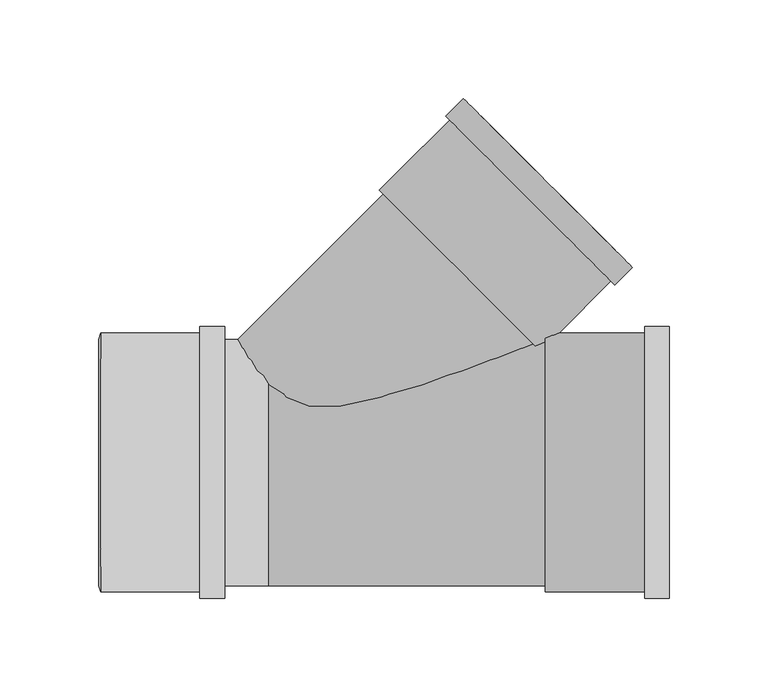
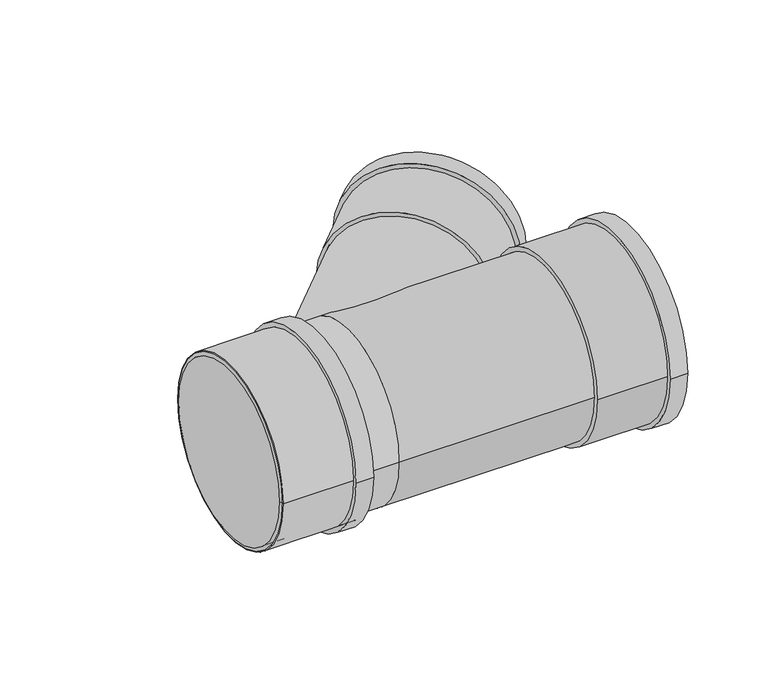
"""IFC4 building model written with IfcOpenShell, lengths in millimetres: pipe fitting geometry, Superdrain HTEA Branch : Superdrain HTEA Branch."""

from ifc_helpers import new_model, si_unit, point, frame, origin, origin_2d, place, context, project, spatial, polyline, circle_curve, trimmed, segment, composite_curve, outline, extrude, source, transform, mapped, element, save
from ifc_brep_helpers import plane_surface, cylinder_surface, revolved_surface, advanced_brep


def pipe_fitting_ddc697cf(model_context):
    return source(origin(), model_context, "Body", "SolidModel", [
        extrude(outline(composite_curve([segment(trimmed(circle_curve(origin_2d(), 65.625), [point((65.625, 0.0))], [point((-65.625, 0.0))], False, "CARTESIAN"), True, "CONTINUOUS"), segment(trimmed(circle_curve(origin_2d(), 65.625), [point((-65.625, 0.0))], [point((65.625, 0.0))], False, "CARTESIAN"), True, "CONTINUOUS")], self_intersect=False), holes=[composite_curve([segment(trimmed(circle_curve(origin_2d(), 62.5), [point((62.5, 0.0))], [point((-62.5, 0.0))], True, "CARTESIAN"), True, "CONTINUOUS"), segment(trimmed(circle_curve(origin_2d(), 62.5), [point((-62.5, 0.0))], [point((62.5, 0.0))], True, "CARTESIAN"), True, "CONTINUOUS")], self_intersect=False)]), frame((-85.0, 0.0, 0.0), z_axis=(1.0, 0.0, 0.0), x_axis=(0.0, 1.0, 0.0)), (0.0, 0.0, 1.0), 63.0),
        extrude(outline(composite_curve([segment(trimmed(circle_curve(origin_2d(), 68.90625), [point((68.90625, 0.0))], [point((-68.90625, 0.0))], False, "CARTESIAN"), True, "CONTINUOUS"), segment(trimmed(circle_curve(origin_2d(), 68.90625), [point((-68.90625, 0.0))], [point((68.90625, 0.0))], False, "CARTESIAN"), True, "CONTINUOUS")], self_intersect=False), holes=[composite_curve([segment(trimmed(circle_curve(origin_2d(), 62.5), [point((62.5, 0.0))], [point((-62.5, 0.0))], True, "CARTESIAN"), True, "CONTINUOUS"), segment(trimmed(circle_curve(origin_2d(), 62.5), [point((-62.5, 0.0))], [point((62.5, 0.0))], True, "CARTESIAN"), True, "CONTINUOUS")], self_intersect=False)]), frame((-34.6, 0.0, 0.0), z_axis=(1.0, 0.0, 0.0), x_axis=(0.0, 1.0, 0.0)), (0.0, 0.0, 1.0), 12.6),
        advanced_brep(
        [(-86.0, 62.5, 0.0), (-86.0, -62.5, 0.0), (-85.0, 65.625, 0.0), (-85.0, -65.625, 0.0)],
        [
            (0, 1, circle_curve(frame((-86.0, 0.0, 0.0), z_axis=(-1.0, 0.0, 0.0), x_axis=(0.0, 1.0000000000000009, 0.0)), 62.5)),
            (1, 0, circle_curve(frame((-86.0, 0.0, 0.0), z_axis=(-1.0, 0.0, 0.0), x_axis=(0.0, -1.0000000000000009, 0.0)), 62.5)),
            (2, 3, circle_curve(frame((-85.0, 0.0, 0.0), z_axis=(1.0, 0.0, 0.0), x_axis=(0.0, -1.0000000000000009, 0.0)), 65.625)),
            (3, 2, circle_curve(frame((-85.0, 0.0, 0.0), z_axis=(1.0, 0.0, 0.0), x_axis=(0.0, 1.0000000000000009, 0.0)), 65.625)),
            (3, 1),
            (0, 2),
        ],
        [
            plane_surface(frame((-86.0, 0.0, 0.0), z_axis=(-1.0, 0.0, 0.0), x_axis=(0.0, 0.0, -1.0))),
            plane_surface(frame((-85.0, 0.0, 0.0), z_axis=(1.0, 0.0, 0.0), x_axis=(0.0, 0.0, -1.0))),
            revolved_surface(polyline([(-86.0, 62.499999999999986, 0.0), (-85.0, 65.625, 0.0)]), (-106.0, 0.0, 0.0), (1.0000000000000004, 0.0, 0.0)),
            revolved_surface(polyline([(-86.0, -62.499999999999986, 0.0), (-85.0, -65.625, 0.0)]), (-106.0, 0.0, 0.0), (1.0000000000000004, 0.0, 0.0)),
        ],
        [
            (0, [[1, 2]]),
            (1, [[3, 4]]),
            (2, [[-4, 5, -1, 6]]),
            (3, [[-3, -6, -2, -5]]),
        ],
    ),
        advanced_brep(
        [(140.5, -65.625, 0.0), (140.5, 65.625, 0.0), (203.5, -65.625, 0.0), (203.5, 65.625, 0.0), (203.5, -62.5, 0.0), (203.5, 62.5, 0.0), (141.5, -62.5, 0.0), (141.5, 62.5, 0.0)],
        [
            (0, 1, circle_curve(frame((140.5, 0.0, 0.0), z_axis=(-1.0, 0.0, 0.0), x_axis=(0.0, 1.0, 0.0)), 65.625)),
            (1, 0, circle_curve(frame((140.5, 0.0, 0.0), z_axis=(-1.0, 0.0, 0.0), x_axis=(0.0, 1.0, 0.0)), 65.625)),
            (2, 3, circle_curve(frame((203.5, 0.0, 0.0), z_axis=(1.0, 0.0, 0.0), x_axis=(0.0, 1.0, 0.0)), 65.625)),
            (3, 2, circle_curve(frame((203.5, 0.0, 0.0), z_axis=(1.0, 0.0, 0.0), x_axis=(0.0, 1.0, 0.0)), 65.625)),
            (4, 5, circle_curve(frame((203.5, 0.0, 0.0), z_axis=(-1.0, 0.0, 0.0), x_axis=(0.0, 1.0, 0.0)), 62.5)),
            (5, 4, circle_curve(frame((203.5, 0.0, 0.0), z_axis=(-1.0, 0.0, 0.0), x_axis=(0.0, 1.0, 0.0)), 62.5)),
            (0, 2),
            (3, 1),
            (6, 7, circle_curve(frame((141.5, 0.0, 0.0), z_axis=(-1.0, 0.0, 0.0), x_axis=(0.0, 1.0, 0.0)), 62.5)),
            (7, 5),
            (4, 6),
            (7, 6, circle_curve(frame((141.5, 0.0, 0.0), z_axis=(-1.0, 0.0, 0.0), x_axis=(0.0, 1.0, 0.0)), 62.5)),
        ],
        [
            plane_surface(frame((140.5, 0.0, 0.0), z_axis=(-1.0, 0.0, 0.0), x_axis=(0.0, 0.0, 1.0))),
            plane_surface(frame((203.5, 0.0, 0.0), z_axis=(1.0, 0.0, 0.0), x_axis=(0.0, 0.0, 1.0))),
            cylinder_surface(frame((140.5, 0.0, 0.0), z_axis=(-1.0, 0.0, 0.0), x_axis=(0.0, 1.0, 0.0)), 65.625),
            revolved_surface(polyline([(141.5, 62.5, 0.0), (203.5, 62.5, 0.0)]), (141.5, 0.0, 0.0), (-1.0, 0.0, 0.0)),
            plane_surface(frame((141.5, 0.0, 0.0), z_axis=(1.0, 0.0, 0.0), x_axis=(0.0, 0.0, 1.0))),
        ],
        [
            (0, [[1, 2]]),
            (1, [[3, 4], [5, 6]]),
            (2, [[-1, 7, -4, 8]]),
            (2, [[-2, -8, -3, -7]]),
            (3, [[9, 10, -5, 11]]),
            (3, [[12, -11, -6, -10]]),
            (4, [[-12, -9]]),
        ],
    ),
        extrude(outline(composite_curve([segment(trimmed(circle_curve(origin_2d(), 68.90625), [point((68.90625, 0.0))], [point((-68.90625, 0.0))], False, "CARTESIAN"), True, "CONTINUOUS"), segment(trimmed(circle_curve(origin_2d(), 68.90625), [point((-68.90625, 0.0))], [point((68.90625, 0.0))], False, "CARTESIAN"), True, "CONTINUOUS")], self_intersect=False), holes=[composite_curve([segment(trimmed(circle_curve(origin_2d(), 62.5), [point((62.5, 0.0))], [point((-62.5, 0.0))], True, "CARTESIAN"), True, "CONTINUOUS"), segment(trimmed(circle_curve(origin_2d(), 62.5), [point((-62.5, 0.0))], [point((62.5, 0.0))], True, "CARTESIAN"), True, "CONTINUOUS")], self_intersect=False)]), frame((190.9, 0.0, 0.0), z_axis=(1.0, 0.0, 0.0), x_axis=(0.0, 1.0, 0.0)), (0.0, 0.0, 1.0), 12.6),
        extrude(outline(composite_curve([segment(trimmed(circle_curve(origin_2d(), 55.0), [point((0.0, 55.0))], [point((0.0, -55.0))], False, "CARTESIAN"), True, "CONTINUOUS"), segment(trimmed(circle_curve(origin_2d(), 55.0), [point((0.0, -55.0))], [point((0.0, 55.0))], False, "CARTESIAN"), True, "CONTINUOUS")], self_intersect=False)), frame((0.0, 0.0, 0.0), z_axis=(0.7071067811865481, 0.7071067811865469, 0.0), x_axis=(0.0, 0.0, 1.0)), (0.0, 0.0, 1.0), 137.6),
        extrude(outline(composite_curve([segment(trimmed(circle_curve(origin_2d(), 62.5), [point((62.5, 0.0))], [point((-62.5, 0.0))], False, "CARTESIAN"), True, "CONTINUOUS"), segment(trimmed(circle_curve(origin_2d(), 62.5), [point((-62.5, 0.0))], [point((62.5, 0.0))], False, "CARTESIAN"), True, "CONTINUOUS")], self_intersect=False)), frame((-85.0, 0.0, 0.0), z_axis=(1.0, 0.0, 0.0), x_axis=(0.0, 1.0, 0.0)), (0.0, 0.0, 1.0), 85.0),
        extrude(outline(composite_curve([segment(trimmed(circle_curve(origin_2d(), 62.5), [point((-62.5, 0.0))], [point((62.5, 0.0))], False, "CARTESIAN"), True, "CONTINUOUS"), segment(trimmed(circle_curve(origin_2d(), 62.5), [point((62.5, 0.0))], [point((-62.5, 0.0))], False, "CARTESIAN"), True, "CONTINUOUS")], self_intersect=False)), frame((0.0, 0.0, 0.0), z_axis=(1.0, 0.0, 0.0), x_axis=(0.0, 1.0, 0.0)), (0.0, 0.0, 1.0), 140.5),
        extrude(outline(composite_curve([segment(trimmed(circle_curve(origin_2d(), 60.6375), [point((0.0, 60.6375))], [point((0.0, -60.6375))], False, "CARTESIAN"), True, "CONTINUOUS"), segment(trimmed(circle_curve(origin_2d(), 60.6375), [point((0.0, -60.6375))], [point((0.0, 60.6375))], False, "CARTESIAN"), True, "CONTINUOUS")], self_intersect=False), holes=[composite_curve([segment(trimmed(circle_curve(origin_2d(), 55.0), [point((0.0, 55.0))], [point((0.0, -55.0))], True, "CARTESIAN"), True, "CONTINUOUS"), segment(trimmed(circle_curve(origin_2d(), 55.0), [point((0.0, -55.0))], [point((0.0, 55.0))], True, "CARTESIAN"), True, "CONTINUOUS")], self_intersect=False)]), frame((132.9360749, 132.9360749, 0.0), z_axis=(0.7071067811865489, 0.7071067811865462, 0.0), x_axis=(0.0, 0.0, 1.0)), (0.0, 0.0, 1.0), 12.6),
        extrude(outline(composite_curve([segment(trimmed(circle_curve(origin_2d(), 57.75), [point((0.0, 57.75))], [point((0.0, -57.75))], False, "CARTESIAN"), True, "CONTINUOUS"), segment(trimmed(circle_curve(origin_2d(), 57.75), [point((0.0, -57.75))], [point((0.0, 57.75))], False, "CARTESIAN"), True, "CONTINUOUS")], self_intersect=False), holes=[composite_curve([segment(trimmed(circle_curve(origin_2d(), 55.0), [point((0.0, 55.0))], [point((0.0, -55.0))], True, "CARTESIAN"), True, "CONTINUOUS"), segment(trimmed(circle_curve(origin_2d(), 55.0), [point((0.0, -55.0))], [point((0.0, 55.0))], True, "CARTESIAN"), True, "CONTINUOUS")], self_intersect=False)]), frame((97.2978931, 97.2978931, 0.0), z_axis=(0.7071067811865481, 0.707106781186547, 0.0), x_axis=(0.0, 0.0, 1.0)), (0.0, 0.0, 1.0), 63.0),
    ])


if __name__ == "__main__":
    model = new_model("IFC4")
    model_context = context("Model", 3, world=origin())
    ifc_project = project(units=[si_unit("LENGTHUNIT", "METRE", prefix="MILLI")], contexts=[model_context])
    site = spatial("IfcSite", under=ifc_project)
    building = spatial("IfcBuilding", under=site)
    placement = place(None, origin())
    pipe_fitting_shape = pipe_fitting_ddc697cf(model_context)
    element("IfcPipeFitting", 1, ObjectType="Superdrain HTEA Branch : Superdrain HTEA Branch", at=placement, inside=building, context=model_context, shape_type="MappedRepresentation", body=[
        mapped(pipe_fitting_shape, transform((0.0, 0.0, 0.0), x_axis=(1.0, 0.0, 0.0), y_axis=(0.0, 1.0, 0.0), z_axis=(0.0, 0.0, 1.0))),
    ])
    save(model, "model.ifc")
